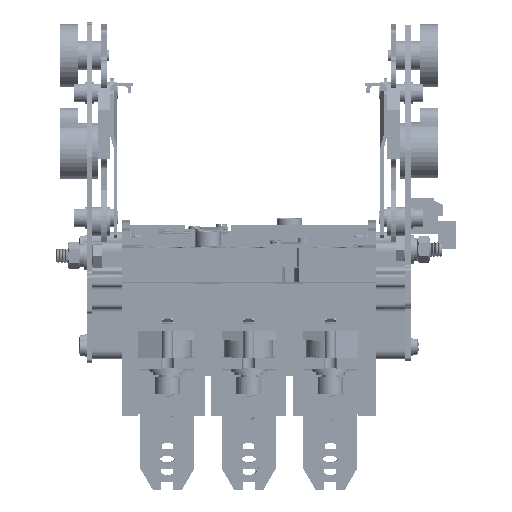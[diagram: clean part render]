
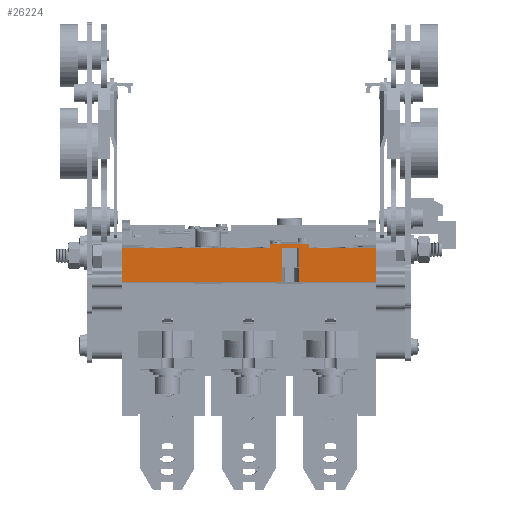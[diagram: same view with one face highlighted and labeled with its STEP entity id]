
A CAD part, front view. The second image highlights one B-rep face of the part: STEP entity #26224.
In plain terms, the highlighted planar face has unit normal (0, -0.999, -0.035).
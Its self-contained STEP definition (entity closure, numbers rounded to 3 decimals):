
#8957=LINE('',#145522,#16197);
#9073=LINE('',#145855,#16313);
#13348=LINE('',#167047,#20588);
#13350=LINE('',#167051,#20590);
#13354=LINE('',#167058,#20594);
#13358=LINE('',#167066,#20598);
#13359=LINE('',#167068,#20599);
#13392=LINE('',#167136,#20632);
#13396=LINE('',#167142,#20636);
#13766=LINE('',#167954,#21006);
#13767=LINE('',#167955,#21007);
#13768=LINE('',#167957,#21008);
#16197=VECTOR('',#114812,1.);
#16313=VECTOR('',#115036,1.);
#20588=VECTOR('',#130217,1.);
#20590=VECTOR('',#130221,1.);
#20594=VECTOR('',#130227,1.);
#20598=VECTOR('',#130233,1.);
#20599=VECTOR('',#130236,1.);
#20632=VECTOR('',#130295,1.);
#20636=VECTOR('',#130301,1.);
#21006=VECTOR('',#131107,1.);
#21007=VECTOR('',#131108,1.);
#21008=VECTOR('',#131111,1.);
#26224=ADVANCED_FACE('',(#34466),#31096,.T.);
#31096=PLANE('',#108692);
#34466=FACE_OUTER_BOUND('',#39233,.T.);
#39233=EDGE_LOOP('',(#60788,#60789,#60790,#60791,#60792,#60793,#60794,#60795,
#60796,#60797,#60798,#60799));
#60788=ORIENTED_EDGE('',*,*,#90888,.F.);
#60789=ORIENTED_EDGE('',*,*,#82899,.F.);
#60790=ORIENTED_EDGE('',*,*,#91340,.F.);
#60791=ORIENTED_EDGE('',*,*,#90887,.T.);
#60792=ORIENTED_EDGE('',*,*,#90927,.T.);
#60793=ORIENTED_EDGE('',*,*,#90883,.F.);
#60794=ORIENTED_EDGE('',*,*,#91339,.F.);
#60795=ORIENTED_EDGE('',*,*,#83062,.T.);
#60796=ORIENTED_EDGE('',*,*,#91341,.F.);
#60797=ORIENTED_EDGE('',*,*,#90923,.F.);
#60798=ORIENTED_EDGE('',*,*,#90879,.F.);
#60799=ORIENTED_EDGE('',*,*,#90877,.T.);
#72797=VERTEX_POINT('',#145521);
#72798=VERTEX_POINT('',#145523);
#72960=VERTEX_POINT('',#145854);
#72961=VERTEX_POINT('',#145856);
#78340=VERTEX_POINT('',#167046);
#78341=VERTEX_POINT('',#167048);
#78342=VERTEX_POINT('',#167052);
#78343=VERTEX_POINT('',#167057);
#78344=VERTEX_POINT('',#167059);
#78345=VERTEX_POINT('',#167063);
#78346=VERTEX_POINT('',#167065);
#78368=VERTEX_POINT('',#167134);
#82899=EDGE_CURVE('',#72797,#72798,#8957,.T.);
#83062=EDGE_CURVE('',#72961,#72960,#9073,.T.);
#90877=EDGE_CURVE('',#78341,#78340,#13348,.T.);
#90879=EDGE_CURVE('',#78341,#78342,#13350,.T.);
#90883=EDGE_CURVE('',#78343,#78344,#13354,.T.);
#90887=EDGE_CURVE('',#78345,#78346,#13358,.T.);
#90888=EDGE_CURVE('',#72798,#78340,#13359,.T.);
#90923=EDGE_CURVE('',#78342,#78368,#13392,.T.);
#90927=EDGE_CURVE('',#78346,#78344,#13396,.T.);
#91339=EDGE_CURVE('',#72961,#78343,#13766,.T.);
#91340=EDGE_CURVE('',#78345,#72797,#13767,.T.);
#91341=EDGE_CURVE('',#78368,#72960,#13768,.T.);
#108692=AXIS2_PLACEMENT_3D('',#167958,#131112,#131113);
#114812=DIRECTION('',(0.,-0.035,0.999));
#115036=DIRECTION('',(0.,-0.035,0.999));
#130217=DIRECTION('',(0.,0.035,-0.999));
#130221=DIRECTION('',(1.,0.,0.));
#130227=DIRECTION('',(0.,-0.035,0.999));
#130233=DIRECTION('',(0.,-0.035,0.999));
#130236=DIRECTION('',(1.,0.,0.));
#130295=DIRECTION('',(0.,0.035,-0.999));
#130301=DIRECTION('',(1.,0.,0.));
#131107=DIRECTION('',(-1.,0.,0.));
#131108=DIRECTION('',(-1.,0.,0.));
#131111=DIRECTION('',(1.,0.,0.));
#131112=DIRECTION('',(0.,-0.999,-0.035));
#131113=DIRECTION('',(0.,0.035,-0.999));
#145521=CARTESIAN_POINT('',(453.049,5.767,-31.044));
#145522=CARTESIAN_POINT('',(453.049,8.349,-104.999));
#145523=CARTESIAN_POINT('',(453.049,5.104,-12.056));
#145854=CARTESIAN_POINT('',(593.549,5.104,-12.056));
#145855=CARTESIAN_POINT('',(593.549,8.349,-104.999));
#145856=CARTESIAN_POINT('',(593.549,5.767,-31.044));
#167046=CARTESIAN_POINT('',(534.799,5.104,-12.056));
#167047=CARTESIAN_POINT('',(534.799,5.034,-10.057));
#167048=CARTESIAN_POINT('',(534.799,5.034,-10.057));
#167051=CARTESIAN_POINT('',(534.799,5.034,-10.057));
#167052=CARTESIAN_POINT('',(556.799,5.034,-10.057));
#167057=CARTESIAN_POINT('',(551.299,5.767,-31.044));
#167058=CARTESIAN_POINT('',(551.299,11.668,-200.042));
#167059=CARTESIAN_POINT('',(551.299,5.104,-12.056));
#167063=CARTESIAN_POINT('',(541.799,5.767,-31.044));
#167065=CARTESIAN_POINT('',(541.799,5.104,-12.056));
#167066=CARTESIAN_POINT('',(541.799,19.615,-427.603));
#167068=CARTESIAN_POINT('',(453.049,5.104,-12.056));
#167134=CARTESIAN_POINT('',(556.799,5.104,-12.056));
#167136=CARTESIAN_POINT('',(556.799,5.034,-10.057));
#167142=CARTESIAN_POINT('',(534.799,5.104,-12.056));
#167954=CARTESIAN_POINT('',(593.549,5.767,-31.044));
#167955=CARTESIAN_POINT('',(593.549,5.767,-31.044));
#167957=CARTESIAN_POINT('',(453.049,5.104,-12.056));
#167958=CARTESIAN_POINT('',(453.049,8.349,-104.999));
